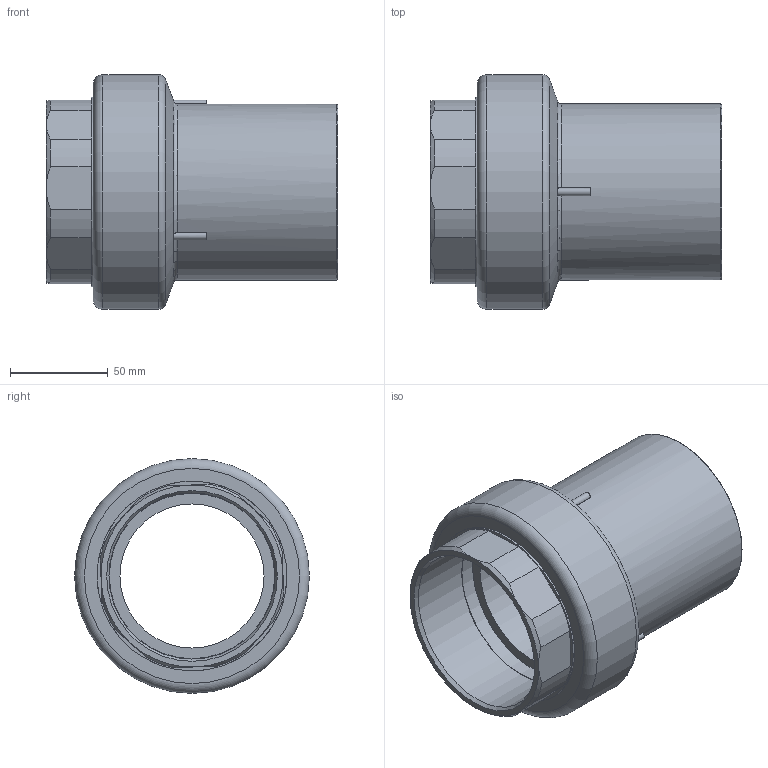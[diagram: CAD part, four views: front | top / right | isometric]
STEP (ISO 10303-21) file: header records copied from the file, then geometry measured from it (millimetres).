
FILE_DESCRIPTION(/* description */ ('Unknown'),/* implementation_level */ '2;1');
FILE_NAME(/* name */ 'RTOFP090C',/* time_stamp */ '2021-03-01T16:58:01+01:00',/* author */ ('Unknown'),/* organization */ ('Unknown'),/* preprocessor_version */ 'ST-DEVELOPER v16.7',/* originating_system */ 'Solid Edge',/* authorisation */ 'Unknown');
FILE_SCHEMA (('AUTOMOTIVE_DESIGN {1 0 10303 214 3 1 1}'));
Length unit declared in the file: millimetre
Products named in the file (3): RTOFP090C; Parte PE 090; IOF090C
Assembly tree (2 placements, depth 2):
  RTOFP090C
    Parte PE 090
    IOF090C
Bounding box: 149 x 120 x 120 mm (x, y, z)
Volume: 461484.8 mm3; surface area: 133465.3 mm2
Topology: 2 solids, 2 shells, 479 faces, 1168 edges, 703 vertices
Faces by surface type: bspline 231, plane 97, cylinder 81, torus 35, cone 35
Full cylindrical faces by diameter (mm): 73.6 x1, 79.5 x2, 84.5 x2, 84.926 x1, 90 x1, 97 x2, 98.4 x2, 104 x4, 120 x1
Entity records: 18225 total; most frequent: CARTESIAN_POINT 6784, ORIENTED_EDGE 2278, DIRECTION 1788, EDGE_CURVE 1139, AXIS2_PLACEMENT_3D 828, VERTEX_POINT 695, EDGE_LOOP 514, FACE_BOUND 514
